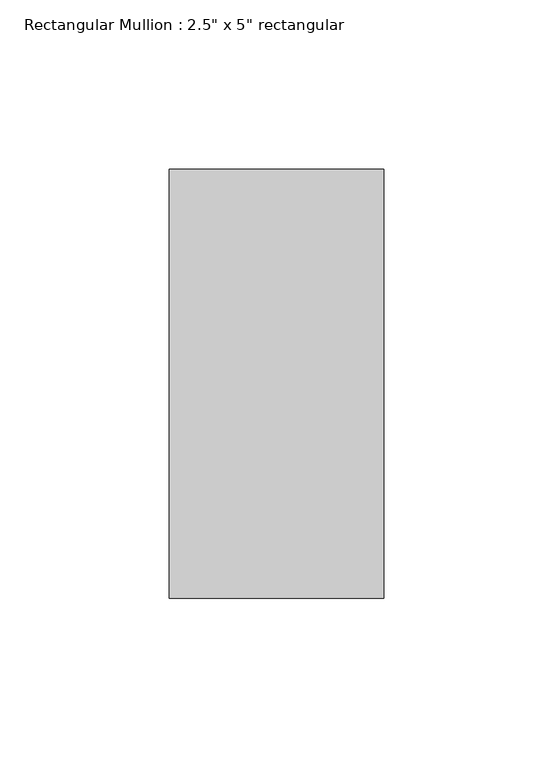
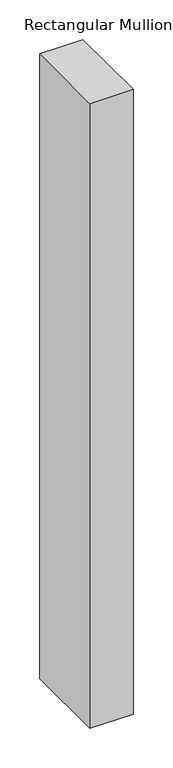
"""IFC4 building model written with IfcOpenShell, lengths in millimetres: member geometry."""

from ifc_helpers import new_model, si_unit, frame, origin, place, context, project, spatial, polyline, outline, extrude, source, transform, mapped, element, save


def member_9193c932(model_context):
    return source(origin(), model_context, "Body", "SweptSolid", [
        extrude(outline(polyline([(0.0, 63.5), (0.0, -63.5), (-63.5, -63.5), (-63.5, 63.5), (0.0, 63.5)])), frame((0.0, 0.0, -965.2), z_axis=(0.0, 0.0, 1.0), x_axis=(1.0, 0.0, 0.0)), (0.0, 0.0, 1.0), 965.2),
    ])


if __name__ == "__main__":
    model = new_model("IFC4")
    model_context = context("Model", 3, world=origin())
    ifc_project = project(units=[si_unit("LENGTHUNIT", "METRE", prefix="MILLI")], contexts=[model_context])
    site = spatial("IfcSite", under=ifc_project)
    building = spatial("IfcBuilding", under=site)
    placement = place(None, origin())
    member_shape = member_9193c932(model_context)
    element("IfcMember", 1, ObjectType="Rectangular Mullion : 2.5\" x 5\" rectangular", at=placement, inside=building, context=model_context, shape_type="MappedRepresentation", body=[
        mapped(member_shape, transform((0.0, 0.0, 0.0), x_axis=(1.0, 0.0, 0.0), y_axis=(0.0, 1.0, 0.0), z_axis=(0.0, 0.0, 1.0))),
    ])
    save(model, "model.ifc")
